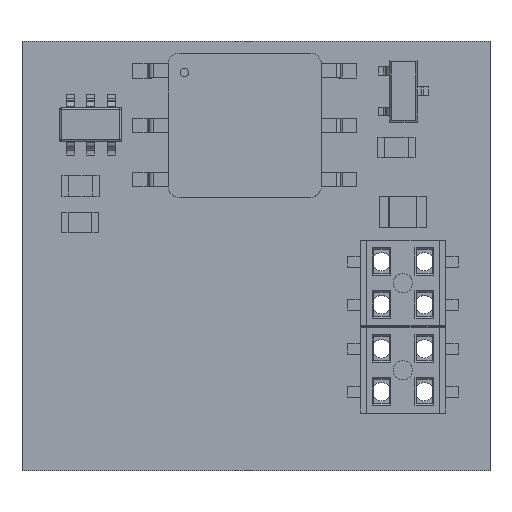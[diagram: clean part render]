
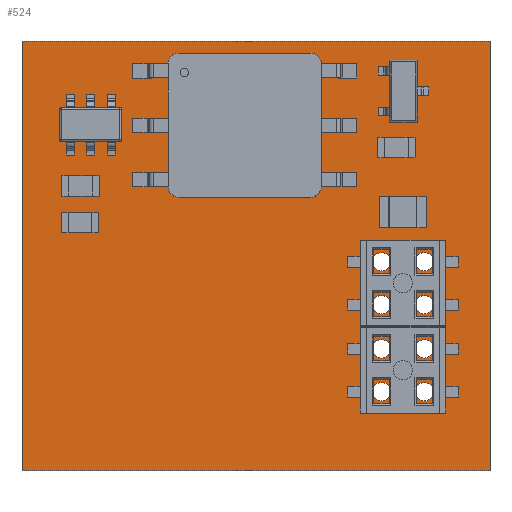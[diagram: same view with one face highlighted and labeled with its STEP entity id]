
A CAD part, top view. The second image highlights one B-rep face of the part: STEP entity #524.
In plain terms, the highlighted planar face has unit normal (0, 0, 1).
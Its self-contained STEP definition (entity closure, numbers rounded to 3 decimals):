
#107 = VERTEX_POINT('',#108);
#108 = CARTESIAN_POINT('',(19.05,15.113,0.));
#114 = EDGE_CURVE('',#107,#115,#117,.T.);
#115 = VERTEX_POINT('',#116);
#116 = CARTESIAN_POINT('',(40.894,15.113,0.));
#117 = LINE('',#118,#119);
#118 = CARTESIAN_POINT('',(19.05,15.113,0.));
#119 = VECTOR('',#120,1.);
#120 = DIRECTION('',(1.,0.,0.));
#145 = EDGE_CURVE('',#115,#146,#148,.T.);
#146 = VERTEX_POINT('',#147);
#147 = CARTESIAN_POINT('',(40.894,35.179,0.));
#148 = LINE('',#149,#150);
#149 = CARTESIAN_POINT('',(40.894,15.113,0.));
#150 = VECTOR('',#151,1.);
#151 = DIRECTION('',(0.,1.,0.));
#176 = EDGE_CURVE('',#146,#177,#179,.T.);
#177 = VERTEX_POINT('',#178);
#178 = CARTESIAN_POINT('',(19.05,35.179,0.));
#179 = LINE('',#180,#181);
#180 = CARTESIAN_POINT('',(40.894,35.179,0.));
#181 = VECTOR('',#182,1.);
#182 = DIRECTION('',(-1.,0.,0.));
#207 = EDGE_CURVE('',#177,#107,#208,.T.);
#208 = LINE('',#209,#210);
#209 = CARTESIAN_POINT('',(19.05,35.179,0.));
#210 = VECTOR('',#211,1.);
#211 = DIRECTION('',(0.,-1.,0.));
#231 = VERTEX_POINT('',#232);
#232 = CARTESIAN_POINT('',(36.26,20.812,0.));
#238 = EDGE_CURVE('',#231,#231,#239,.T.);
#239 = CIRCLE('',#240,0.43);
#240 = AXIS2_PLACEMENT_3D('',#241,#242,#243);
#241 = CARTESIAN_POINT('',(35.83,20.812,0.));
#242 = DIRECTION('',(0.,0.,1.));
#243 = DIRECTION('',(1.,0.,0.));
#264 = VERTEX_POINT('',#265);
#265 = CARTESIAN_POINT('',(36.26,18.812,0.));
#271 = EDGE_CURVE('',#264,#264,#272,.T.);
#272 = CIRCLE('',#273,0.43);
#273 = AXIS2_PLACEMENT_3D('',#274,#275,#276);
#274 = CARTESIAN_POINT('',(35.83,18.812,0.));
#275 = DIRECTION('',(0.,0.,1.));
#276 = DIRECTION('',(1.,0.,0.));
#297 = VERTEX_POINT('',#298);
#298 = CARTESIAN_POINT('',(36.26,24.876,0.));
#304 = EDGE_CURVE('',#297,#297,#305,.T.);
#305 = CIRCLE('',#306,0.43);
#306 = AXIS2_PLACEMENT_3D('',#307,#308,#309);
#307 = CARTESIAN_POINT('',(35.83,24.876,0.));
#308 = DIRECTION('',(0.,0.,1.));
#309 = DIRECTION('',(1.,0.,0.));
#330 = VERTEX_POINT('',#331);
#331 = CARTESIAN_POINT('',(36.26,22.876,0.));
#337 = EDGE_CURVE('',#330,#330,#338,.T.);
#338 = CIRCLE('',#339,0.43);
#339 = AXIS2_PLACEMENT_3D('',#340,#341,#342);
#340 = CARTESIAN_POINT('',(35.83,22.876,0.));
#341 = DIRECTION('',(0.,0.,1.));
#342 = DIRECTION('',(1.,0.,0.));
#363 = VERTEX_POINT('',#364);
#364 = CARTESIAN_POINT('',(38.26,20.812,0.));
#370 = EDGE_CURVE('',#363,#363,#371,.T.);
#371 = CIRCLE('',#372,0.43);
#372 = AXIS2_PLACEMENT_3D('',#373,#374,#375);
#373 = CARTESIAN_POINT('',(37.83,20.812,0.));
#374 = DIRECTION('',(0.,0.,1.));
#375 = DIRECTION('',(1.,0.,0.));
#396 = VERTEX_POINT('',#397);
#397 = CARTESIAN_POINT('',(38.26,18.812,0.));
#403 = EDGE_CURVE('',#396,#396,#404,.T.);
#404 = CIRCLE('',#405,0.43);
#405 = AXIS2_PLACEMENT_3D('',#406,#407,#408);
#406 = CARTESIAN_POINT('',(37.83,18.812,0.));
#407 = DIRECTION('',(0.,0.,1.));
#408 = DIRECTION('',(1.,0.,0.));
#429 = VERTEX_POINT('',#430);
#430 = CARTESIAN_POINT('',(38.26,24.876,0.));
#436 = EDGE_CURVE('',#429,#429,#437,.T.);
#437 = CIRCLE('',#438,0.43);
#438 = AXIS2_PLACEMENT_3D('',#439,#440,#441);
#439 = CARTESIAN_POINT('',(37.83,24.876,0.));
#440 = DIRECTION('',(0.,0.,1.));
#441 = DIRECTION('',(1.,0.,0.));
#462 = VERTEX_POINT('',#463);
#463 = CARTESIAN_POINT('',(38.26,22.876,0.));
#469 = EDGE_CURVE('',#462,#462,#470,.T.);
#470 = CIRCLE('',#471,0.43);
#471 = AXIS2_PLACEMENT_3D('',#472,#473,#474);
#472 = CARTESIAN_POINT('',(37.83,22.876,0.));
#473 = DIRECTION('',(0.,0.,1.));
#474 = DIRECTION('',(1.,0.,0.));
#524 = ADVANCED_FACE('',(#525,#531,#534,#537,#540,#543,#546,#549,#552),
  #555,.F.);
#525 = FACE_BOUND('',#526,.T.);
#526 = EDGE_LOOP('',(#527,#528,#529,#530));
#527 = ORIENTED_EDGE('',*,*,#114,.T.);
#528 = ORIENTED_EDGE('',*,*,#145,.T.);
#529 = ORIENTED_EDGE('',*,*,#176,.T.);
#530 = ORIENTED_EDGE('',*,*,#207,.T.);
#531 = FACE_BOUND('',#532,.F.);
#532 = EDGE_LOOP('',(#533));
#533 = ORIENTED_EDGE('',*,*,#238,.T.);
#534 = FACE_BOUND('',#535,.F.);
#535 = EDGE_LOOP('',(#536));
#536 = ORIENTED_EDGE('',*,*,#271,.T.);
#537 = FACE_BOUND('',#538,.F.);
#538 = EDGE_LOOP('',(#539));
#539 = ORIENTED_EDGE('',*,*,#304,.T.);
#540 = FACE_BOUND('',#541,.F.);
#541 = EDGE_LOOP('',(#542));
#542 = ORIENTED_EDGE('',*,*,#337,.T.);
#543 = FACE_BOUND('',#544,.F.);
#544 = EDGE_LOOP('',(#545));
#545 = ORIENTED_EDGE('',*,*,#370,.T.);
#546 = FACE_BOUND('',#547,.F.);
#547 = EDGE_LOOP('',(#548));
#548 = ORIENTED_EDGE('',*,*,#403,.T.);
#549 = FACE_BOUND('',#550,.F.);
#550 = EDGE_LOOP('',(#551));
#551 = ORIENTED_EDGE('',*,*,#436,.T.);
#552 = FACE_BOUND('',#553,.F.);
#553 = EDGE_LOOP('',(#554));
#554 = ORIENTED_EDGE('',*,*,#469,.T.);
#555 = PLANE('',#556);
#556 = AXIS2_PLACEMENT_3D('',#557,#558,#559);
#557 = CARTESIAN_POINT('',(19.05,15.113,0.));
#558 = DIRECTION('',(0.,0.,-1.));
#559 = DIRECTION('',(-1.,0.,0.));
